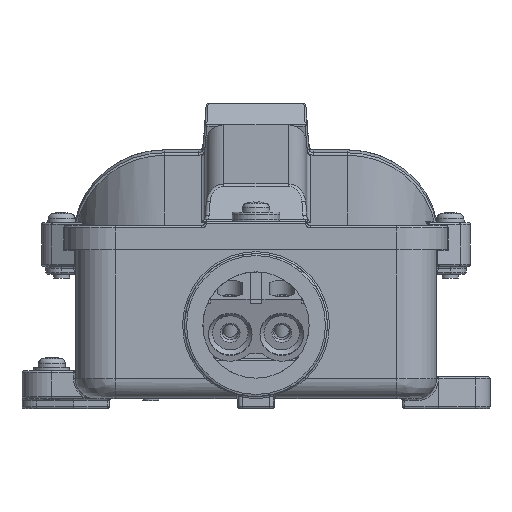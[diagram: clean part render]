
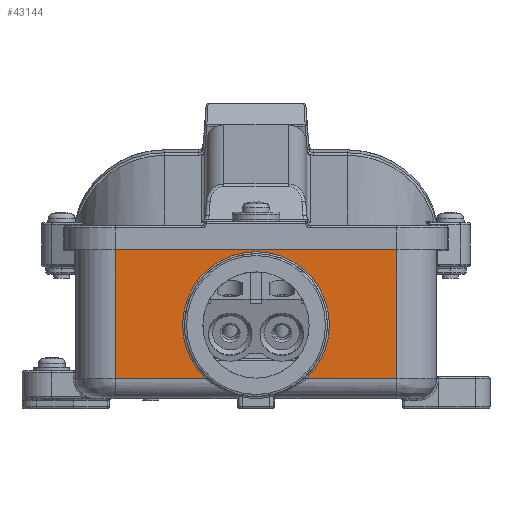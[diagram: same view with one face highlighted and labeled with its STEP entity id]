
A CAD part, top view. The second image highlights one B-rep face of the part: STEP entity #43144.
In plain terms, the highlighted planar face has unit normal (0, 0, 1).
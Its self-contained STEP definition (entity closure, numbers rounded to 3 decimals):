
#9660=CARTESIAN_POINT('',(-35.5,42.5,-5.));
#9661=VERTEX_POINT('',#9660);
#9669=CARTESIAN_POINT('',(35.5,42.5,-5.));
#9670=VERTEX_POINT('',#9669);
#9671=CARTESIAN_POINT('',(35.5,42.5,-5.));
#9672=DIRECTION('',(-1.0,0.0,0.0));
#9673=VECTOR('',#9672,71.);
#9674=LINE('',#9671,#9673);
#9675=EDGE_CURVE('',#9670,#9661,#9674,.T.);
#42768=CARTESIAN_POINT('',(12.649,7.5,-5.));
#42769=VERTEX_POINT('',#42768);
#42863=CARTESIAN_POINT('',(-12.649,7.5,-5.));
#42864=VERTEX_POINT('',#42863);
#42874=CARTESIAN_POINT('',(0.,21.,-5.));
#42875=DIRECTION('',(0.0,0.0,1.0));
#42876=DIRECTION('',(0.0,1.0,0.0));
#42877=AXIS2_PLACEMENT_3D('',#42874,#42875,#42876);
#42878=CIRCLE('',#42877,18.5);
#42879=EDGE_CURVE('',#42769,#42864,#42878,.T.);
#43095=CARTESIAN_POINT('',(-35.5,7.5,-5.));
#43096=VERTEX_POINT('',#43095);
#43097=CARTESIAN_POINT('',(-12.649,7.5,-5.));
#43098=DIRECTION('',(-1.0,0.0,0.0));
#43099=VECTOR('',#43098,22.851);
#43100=LINE('',#43097,#43099);
#43101=EDGE_CURVE('',#42864,#43096,#43100,.T.);
#43114=CARTESIAN_POINT('',(35.5,2.5,-5.));
#43115=DIRECTION('',(0.0,0.0,1.0));
#43116=DIRECTION('',(0.0,-1.0,0.0));
#43117=AXIS2_PLACEMENT_3D('',#43114,#43115,#43116);
#43118=PLANE('',#43117);
#43119=ORIENTED_EDGE('',*,*,#42879,.F.);
#43120=CARTESIAN_POINT('',(35.5,7.5,-5.));
#43121=VERTEX_POINT('',#43120);
#43122=CARTESIAN_POINT('',(35.5,7.5,-5.));
#43123=DIRECTION('',(-1.0,0.0,0.0));
#43124=VECTOR('',#43123,22.851);
#43125=LINE('',#43122,#43124);
#43126=EDGE_CURVE('',#43121,#42769,#43125,.T.);
#43127=ORIENTED_EDGE('',*,*,#43126,.F.);
#43128=CARTESIAN_POINT('',(35.5,7.5,-5.));
#43129=DIRECTION('',(0.0,1.0,0.0));
#43130=VECTOR('',#43129,35.0);
#43131=LINE('',#43128,#43130);
#43132=EDGE_CURVE('',#43121,#9670,#43131,.T.);
#43133=ORIENTED_EDGE('',*,*,#43132,.T.);
#43134=ORIENTED_EDGE('',*,*,#9675,.T.);
#43135=CARTESIAN_POINT('',(-35.5,7.5,-5.));
#43136=DIRECTION('',(0.0,1.0,0.0));
#43137=VECTOR('',#43136,35.0);
#43138=LINE('',#43135,#43137);
#43139=EDGE_CURVE('',#43096,#9661,#43138,.T.);
#43140=ORIENTED_EDGE('',*,*,#43139,.F.);
#43141=ORIENTED_EDGE('',*,*,#43101,.F.);
#43142=EDGE_LOOP('',(#43119,#43127,#43133,#43134,#43140,#43141));
#43143=FACE_OUTER_BOUND('',#43142,.T.);
#43144=ADVANCED_FACE('',(#43143),#43118,.T.);
